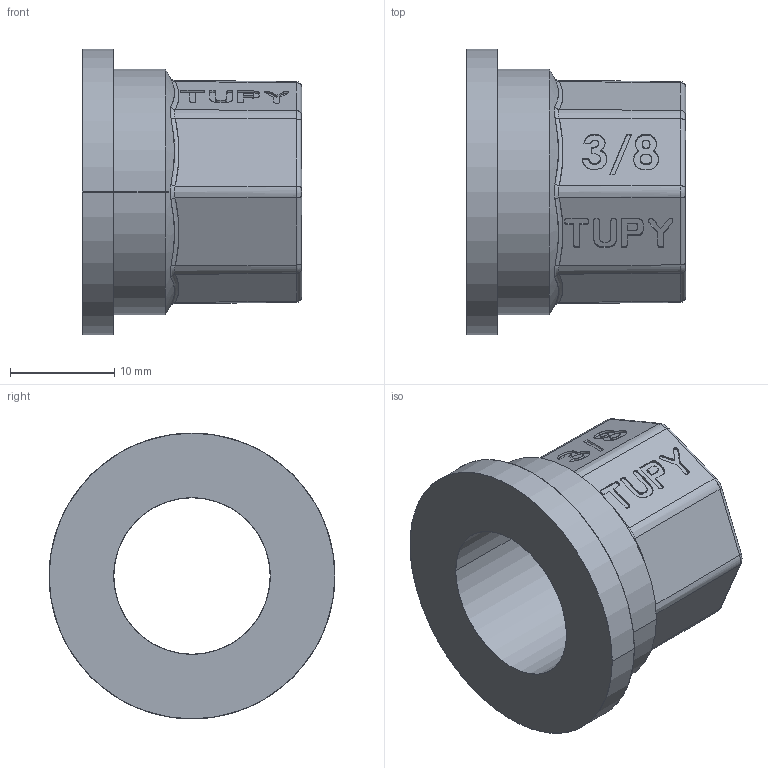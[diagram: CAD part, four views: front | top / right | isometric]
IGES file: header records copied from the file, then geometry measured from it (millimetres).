
Start section: SolidWorks IGES file using analytic representation for surfaces
Global section: file name: C:\Users\Joel Rosa\Desktop\Tubulação\12-83-OK\12-83-003.IGS; native system: SolidWorks 2011; preprocessor: SolidWorks 2011; author: Joel Rosa; date: 131216.232543; units: millimetre
Bounding box: 21 x 27.4 x 27.4 mm (x, y, z)
Surface area: 3561.2 mm2 (no closed solid volume)
Topology: 0 solids, 0 shells, 238 faces, 2262 edges, 2262 vertices
Faces by surface type: bspline 182, revolution 56
